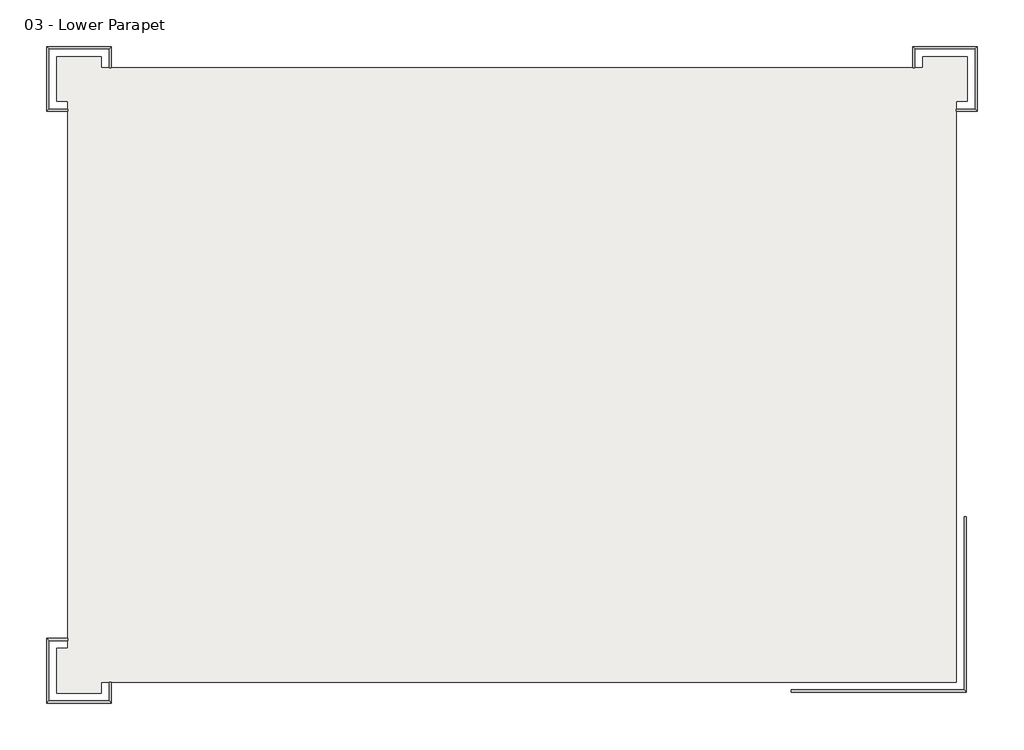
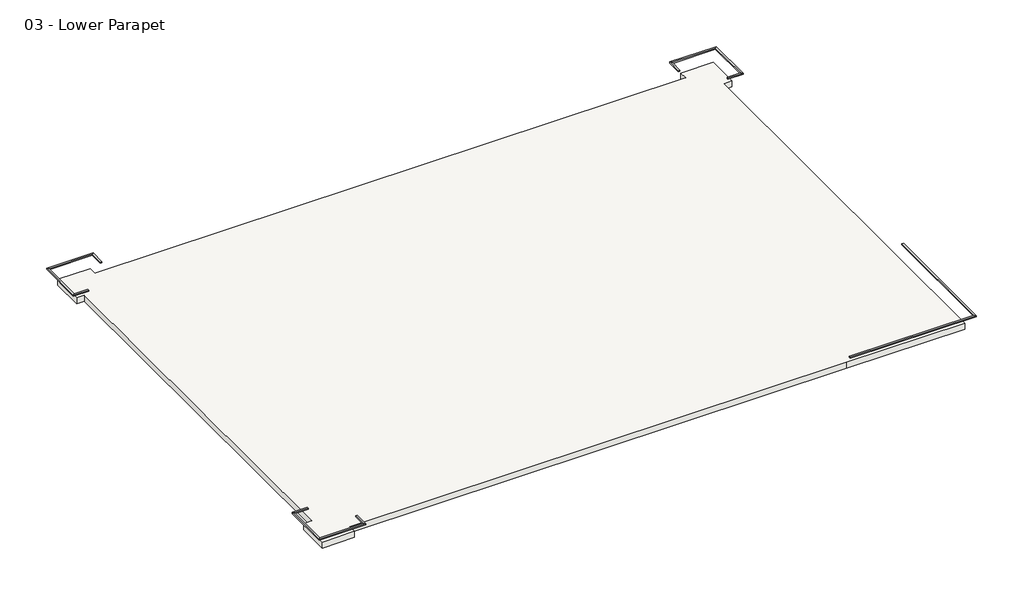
# One storey: 14 proxies, 1 roof.
"""IFC4 building model written with IfcOpenShell, lengths in millimetres."""

import ifcopenshell
import ifcopenshell.guid

model = None  # the IFC model being written
_history = None  # IfcOwnerHistory: only IFC2X3 demands one
_inside = {}  # id of a spatial element -> (the spatial element, [elements in it])
_under = {}  # id of a project, library or spatial element -> (it, [spatial elements below it])
_declared = {}  # id of a project -> (the project, [libraries it declares])
_typed = {}  # id of a type object -> (the type object, [elements of that type])
_made_of = {}  # id of a material, layer set ... -> (it, [elements and type objects made of it])


def new_model(schema):
    """Start an empty IFC model of exactly this schema.

    Asked for "IFC4X3", IfcOpenShell would pick the latest addendum, in which some entities
    have other attributes; the version numbers below select the first issue.
    IFC2X3 requires an IfcOwnerHistory on every rooted entity: one is made here for all.
    """
    global model, _history
    if schema == "IFC4X3":
        model = ifcopenshell.file(schema_version=(4, 3, 0, 0))
    else:
        model = ifcopenshell.file(schema=schema)
    _inside.clear()
    _under.clear()
    _declared.clear()
    _typed.clear()
    _made_of.clear()
    _history = None
    if model.schema == "IFC2X3":
        org = make("IfcOrganization", Name="unknown")
        user = make(
            "IfcPersonAndOrganization",
            ThePerson=make("IfcPerson", FamilyName="unknown"),
            TheOrganization=org,
        )
        app = make(
            "IfcApplication",
            ApplicationDeveloper=org,
            Version="unknown",
            ApplicationFullName="unknown",
            ApplicationIdentifier="unknown",
        )
        _history = make(
            "IfcOwnerHistory",
            OwningUser=user,
            OwningApplication=app,
            ChangeAction="ADDED",
            CreationDate=0,
        )
    return model


def make(cls, **values):
    """One entity of the class cls with the attributes given. An attribute that is None is left unset."""
    return model.create_entity(
        cls, **{name: value for name, value in values.items() if value is not None}
    )


def rooted(cls, **values):
    """An entity with a GlobalId (a new one), such as an element, a storey or a relation."""
    return make(cls, GlobalId=ifcopenshell.guid.new(), OwnerHistory=_history, **values)


def si_unit(unit_type, name, prefix=None):
    """IfcSIUnit, for example si_unit("LENGTHUNIT", "METRE", prefix="MILLI")."""
    return make("IfcSIUnit", UnitType=unit_type, Prefix=prefix, Name=name)


def assignment(units):
    """IfcUnitAssignment: the units of a project."""
    return None if units is None else make("IfcUnitAssignment", Units=units)


def point(xyz):
    """IfcCartesianPoint."""
    return None if xyz is None else make("IfcCartesianPoint", Coordinates=xyz)


def direction(xyz):
    """IfcDirection."""
    return None if xyz is None else make("IfcDirection", DirectionRatios=xyz)


def frame(location, z_axis=None, x_axis=None):
    """IfcAxis2Placement3D, a coordinate frame: its origin and axes. An axis left out is left unset."""
    return make(
        "IfcAxis2Placement3D",
        Location=point(location),
        Axis=direction(z_axis),
        RefDirection=direction(x_axis),
    )


def origin():
    """The frame at (0, 0, 0) with its axes left unset."""
    return frame((0.0, 0.0, 0.0))


def place(relative_to, where):
    """IfcLocalPlacement: puts the frame where relative to a parent placement (None: the world)."""
    return make(
        "IfcLocalPlacement", PlacementRelTo=relative_to, RelativePlacement=where
    )


def context(
    kind, dimensions, precision=None, world=None, true_north=None, identifier=None
):
    """IfcGeometricRepresentationContext, for example the 3D "Model" context."""
    return make(
        "IfcGeometricRepresentationContext",
        ContextIdentifier=identifier,
        ContextType=kind,
        CoordinateSpaceDimension=dimensions,
        Precision=precision,
        WorldCoordinateSystem=world,
        TrueNorth=true_north,
    )


def project(units=None, contexts=None):
    """IfcProject with its units and contexts."""
    return rooted(
        "IfcProject",
        Name="project",
        RepresentationContexts=contexts,
        UnitsInContext=assignment(units),
    )


def spatial(cls, under=None, at=None, **own):
    """A site, building, storey or space (cls), placed at a placement, below another one or the project."""
    s = rooted(cls, ObjectPlacement=at, **own)
    if under is not None:
        _under.setdefault(under.id(), (under, []))[1].append(s)
    return s


def polyline(points):
    """IfcPolyline through the points."""
    return make("IfcPolyline", Points=[point(p) for p in points])


def outline(outer, holes=None, kind="AREA"):
    """IfcArbitraryClosedProfileDef: a profile drawn as a closed curve; with holes, ...WithVoids."""
    if holes is None:
        return make("IfcArbitraryClosedProfileDef", ProfileType=kind, OuterCurve=outer)
    return make(
        "IfcArbitraryProfileDefWithVoids",
        ProfileType=kind,
        OuterCurve=outer,
        InnerCurves=holes,
    )


def extrude(swept, where, along, depth):
    """IfcExtrudedAreaSolid: the profile swept, set in the frame where, extruded along a direction by depth."""
    return make(
        "IfcExtrudedAreaSolid",
        SweptArea=swept,
        Position=where,
        ExtrudedDirection=direction(along),
        Depth=depth,
    )


def shape(context_of_items, identifier, shape_type, items):
    """IfcShapeRepresentation: the items that make up one representation, for example the "Body"."""
    return make(
        "IfcShapeRepresentation",
        ContextOfItems=context_of_items,
        RepresentationIdentifier=identifier,
        RepresentationType=shape_type,
        Items=items,
    )


def made_of(thing, what):
    """Note that an element or type object is made of a material, layer set ...; save() writes the relation."""
    if what is not None:
        _made_of.setdefault(what.id(), (what, []))[1].append(thing)
    return thing


def element(
    cls,
    number,
    at=None,
    inside=None,
    cuts=None,
    type_object=None,
    material=None,
    context=None,
    identifier="Body",
    shape_type=None,
    held_by="IfcProductDefinitionShape",
    body=None,
    shapes=None,
    **own,
):
    """One element of the class cls, such as IfcWall. Its Tag is "e" and its number.

    at: its placement. inside: the storey or other place that contains it. cuts: it is an
    opening in that element (IfcRelVoidsElement). A single representation is given by context,
    identifier, shape_type and body (its items); several are given by shapes. held_by: the class
    of the entity that holds the representations. save() writes the other relations.
    """
    e = rooted(cls, Tag="e%d" % number, ObjectPlacement=at, **own)
    if body is not None:
        shapes = [shape(context, identifier, shape_type, body)]
    if shapes is not None:
        e.Representation = make(held_by, Representations=shapes)
    if inside is not None:
        _inside.setdefault(inside.id(), (inside, []))[1].append(e)
    if cuts is not None:
        rooted(
            "IfcRelVoidsElement", RelatingBuildingElement=cuts, RelatedOpeningElement=e
        )
    if type_object is not None:
        _typed.setdefault(type_object.id(), (type_object, []))[1].append(e)
    return made_of(e, material)


def aggregate(whole, parts):
    """IfcRelAggregates: a whole, such as a stair, and the parts it consists of."""
    return rooted("IfcRelAggregates", RelatingObject=whole, RelatedObjects=parts)


def save(model, path):
    """Write the relations noted so far, then the file.

    IfcRelAggregates (storeys below a building ...), IfcRelContainedInSpatialStructure (elements
    in a storey), IfcRelDefinesByType, IfcRelAssociatesMaterial and IfcRelDeclares: one each for
    every whole, place, type object, material and project.
    """
    for whole, parts in _under.values():
        aggregate(whole, parts)
    for where, things in _inside.values():
        rooted(
            "IfcRelContainedInSpatialStructure",
            RelatedElements=things,
            RelatingStructure=where,
        )
    for kind, things in _typed.values():
        rooted("IfcRelDefinesByType", RelatedObjects=things, RelatingType=kind)
    for what, things in _made_of.values():
        rooted("IfcRelAssociatesMaterial", RelatedObjects=things, RelatingMaterial=what)
    for by, libraries in _declared.values():
        rooted("IfcRelDeclares", RelatingContext=by, RelatedDefinitions=libraries)
    model.write(path)


model = new_model("IFC4")

# Units and contexts
model_context = context("Model", 3, world=origin())
ifc_project = project(units=[si_unit("LENGTHUNIT", "METRE", prefix="MILLI")], contexts=[model_context])

# Site, building, storey
site = spatial("IfcSite", under=ifc_project)
building = spatial("IfcBuilding", under=site)
storey = spatial("IfcBuildingStorey", under=building, Name="03 - Lower Parapet", Elevation=7500.0)

# Proxies
placement = place(None, origin())
element("IfcBuildingElementProxy", 1, Name="Reveals", at=placement, inside=storey, context=model_context, shape_type="SweptSolid", body=[
    extrude(outline(polyline([(-20106.4727721, -13977.9313057), (-20003.9727721, -13977.9313057), (-20003.9727721, -14934.2313057), (-20106.4727721, -14831.7313057), (-20106.4727721, -13977.9313057)])), frame((0.0, 0.0, 7700.0), z_axis=(0.0, 0.0, 1.0), x_axis=(1.0, 0.0, 0.0)), (0.0, 0.0, 1.0), 75.0),
])
element("IfcBuildingElementProxy", 2, Name="Reveals", at=placement, inside=storey, context=model_context, shape_type="SweptSolid", body=[
    extrude(outline(polyline([(-20106.4727721, -14831.7313057), (-20003.9727721, -14934.2313057), (-22946.9727721, -14934.2313057), (-22844.4727721, -14831.7313057), (-20106.4727721, -14831.7313057)])), frame((0.0, 0.0, 7700.0), z_axis=(0.0, 0.0, 1.0), x_axis=(1.0, 0.0, 0.0)), (0.0, 0.0, 1.0), 75.0),
])
element("IfcBuildingElementProxy", 3, Name="Reveals", at=placement, inside=storey, context=model_context, shape_type="SweptSolid", body=[
    extrude(outline(polyline([(-22844.4727721, -14831.7313057), (-22946.9727721, -14934.2313057), (-22946.9727721, -11991.2313057), (-22844.4727721, -12093.7313057), (-22844.4727721, -14831.7313057)])), frame((0.0, 0.0, 7700.0), z_axis=(0.0, 0.0, 1.0), x_axis=(1.0, 0.0, 0.0)), (0.0, 0.0, 1.0), 75.0),
])
element("IfcBuildingElementProxy", 4, Name="Reveals", at=placement, inside=storey, context=model_context, shape_type="SweptSolid", body=[
    extrude(outline(polyline([(-22844.4727721, -12093.7313057), (-22946.9727721, -11991.2313057), (-21990.4727721, -11991.2313057), (-21990.4727721, -12093.7313057), (-22844.4727721, -12093.7313057)])), frame((0.0, 0.0, 7700.0), z_axis=(0.0, 0.0, 1.0), x_axis=(1.0, 0.0, 0.0)), (0.0, 0.0, 1.0), 75.0),
])
element("IfcBuildingElementProxy", 5, Name="Reveals", at=placement, inside=storey, context=model_context, shape_type="SweptSolid", body=[
    extrude(outline(polyline([(-21990.4727721, 12030.0686943), (-21990.4727721, 11927.5686943), (-22946.9727721, 11927.5686943), (-22844.4727721, 12030.0686943), (-21990.4727721, 12030.0686943)])), frame((0.0, 0.0, 7700.0), z_axis=(0.0, 0.0, 1.0), x_axis=(1.0, 0.0, 0.0)), (0.0, 0.0, 1.0), 75.0),
])
element("IfcBuildingElementProxy", 6, Name="Reveals", at=placement, inside=storey, context=model_context, shape_type="SweptSolid", body=[
    extrude(outline(polyline([(-22844.4727721, 12030.0686943), (-22946.9727721, 11927.5686943), (-22946.9727721, 14870.5686943), (-22844.4727721, 14768.0686943), (-22844.4727721, 12030.0686943)])), frame((0.0, 0.0, 7700.0), z_axis=(0.0, 0.0, 1.0), x_axis=(1.0, 0.0, 0.0)), (0.0, 0.0, 1.0), 75.0),
])
element("IfcBuildingElementProxy", 7, Name="Reveals", at=placement, inside=storey, context=model_context, shape_type="SweptSolid", body=[
    extrude(outline(polyline([(-22844.4727721, 14768.0686943), (-22946.9727721, 14870.5686943), (-20003.9727721, 14870.5686943), (-20106.4727721, 14768.0686943), (-22844.4727721, 14768.0686943)])), frame((0.0, 0.0, 7700.0), z_axis=(0.0, 0.0, 1.0), x_axis=(1.0, 0.0, 0.0)), (0.0, 0.0, 1.0), 75.0),
])
element("IfcBuildingElementProxy", 8, Name="Reveals", at=placement, inside=storey, context=model_context, shape_type="SweptSolid", body=[
    extrude(outline(polyline([(-20106.4727721, 14768.0686943), (-20003.9727721, 14870.5686943), (-20003.9727721, 13914.0686943), (-20106.4727721, 13914.0686943), (-20106.4727721, 14768.0686943)])), frame((0.0, 0.0, 7700.0), z_axis=(0.0, 0.0, 1.0), x_axis=(1.0, 0.0, 0.0)), (0.0, 0.0, 1.0), 75.0),
])
element("IfcBuildingElementProxy", 9, Name="Reveals", at=placement, inside=storey, context=model_context, shape_type="SweptSolid", body=[
    extrude(outline(polyline([(16467.5272279, 13914.0686943), (16365.0272279, 13914.0686943), (16365.0272279, 14870.5686943), (16467.5272279, 14768.0686943), (16467.5272279, 13914.0686943)])), frame((0.0, 0.0, 7700.0), z_axis=(0.0, 0.0, 1.0), x_axis=(1.0, 0.0, 0.0)), (0.0, 0.0, 1.0), 75.0),
])
element("IfcBuildingElementProxy", 10, Name="Reveals", at=placement, inside=storey, context=model_context, shape_type="SweptSolid", body=[
    extrude(outline(polyline([(16467.5272279, 14768.0686943), (16365.0272279, 14870.5686943), (19308.0272279, 14870.5686943), (19205.5272279, 14768.0686943), (16467.5272279, 14768.0686943)])), frame((0.0, 0.0, 7700.0), z_axis=(0.0, 0.0, 1.0), x_axis=(1.0, 0.0, 0.0)), (0.0, 0.0, 1.0), 75.0),
])
element("IfcBuildingElementProxy", 11, Name="Reveals", at=placement, inside=storey, context=model_context, shape_type="SweptSolid", body=[
    extrude(outline(polyline([(19205.5272279, 14768.0686943), (19308.0272279, 14870.5686943), (19308.0272279, 11927.5686943), (19205.5272279, 12030.0686943), (19205.5272279, 14768.0686943)])), frame((0.0, 0.0, 7700.0), z_axis=(0.0, 0.0, 1.0), x_axis=(1.0, 0.0, 0.0)), (0.0, 0.0, 1.0), 75.0),
])
element("IfcBuildingElementProxy", 12, Name="Reveals", at=placement, inside=storey, context=model_context, shape_type="SweptSolid", body=[
    extrude(outline(polyline([(19205.5272279, 12030.0686943), (19308.0272279, 11927.5686943), (18351.5272279, 11927.5686943), (18351.5272279, 12030.0686943), (19205.5272279, 12030.0686943)])), frame((0.0, 0.0, 7700.0), z_axis=(0.0, 0.0, 1.0), x_axis=(1.0, 0.0, 0.0)), (0.0, 0.0, 1.0), 75.0),
])
element("IfcBuildingElementProxy", 13, Name="Reveals", at=placement, inside=storey, context=model_context, shape_type="SweptSolid", body=[
    extrude(outline(polyline([(18705.5272279, -6481.9313057), (18808.0272279, -6481.9313057), (18808.0272279, -14434.4313057), (18705.5272279, -14331.9313057), (18705.5272279, -6481.9313057)])), frame((0.0, 0.0, 7700.0), z_axis=(0.0, 0.0, 1.0), x_axis=(1.0, 0.0, 0.0)), (0.0, 0.0, 1.0), 75.0),
])
element("IfcBuildingElementProxy", 14, Name="Reveals", at=placement, inside=storey, context=model_context, shape_type="SweptSolid", body=[
    extrude(outline(polyline([(18705.5272279, -14331.9313057), (18808.0272279, -14434.4313057), (10855.5272279, -14434.4313057), (10855.5272279, -14331.9313057), (18705.5272279, -14331.9313057)])), frame((0.0, 0.0, 7700.0), z_axis=(0.0, 0.0, 1.0), x_axis=(1.0, 0.0, 0.0)), (0.0, 0.0, 1.0), 75.0),
])

# Roof
element("IfcRoof", 15, ObjectType="Generic - 400mm", at=placement, inside=storey, context=model_context, shape_type="SweptSolid", body=[
    extrude(outline(polyline([(-20460.4727721, 13914.0686943), (16821.5272279, 13914.0686943), (16821.5272279, 14414.0686943), (18851.5272279, 14414.0686943), (18851.5272279, 12384.0686943), (18351.5272279, 12384.0686943), (18351.5272279, -6481.9313057), (18351.5272279, -13977.9313057), (10855.5272279, -13977.9313057), (-20460.4727721, -13977.9313057), (-20460.4727721, -14477.7313057), (-22490.4727721, -14477.7313057), (-22490.4727721, -12447.7313057), (-21990.4727721, -12447.7313057), (-21990.4727721, 12384.0686943), (-22490.4727721, 12384.0686943), (-22490.4727721, 14414.0686943), (-20460.4727721, 14414.0686943), (-20460.4727721, 13914.0686943)])), frame((0.0, 0.0, 6750.0), z_axis=(0.0, 0.0, 1.0), x_axis=(1.0, 0.0, 0.0)), (0.0, 0.0, 1.0), 400.0),
])

save(model, "model.ifc")
